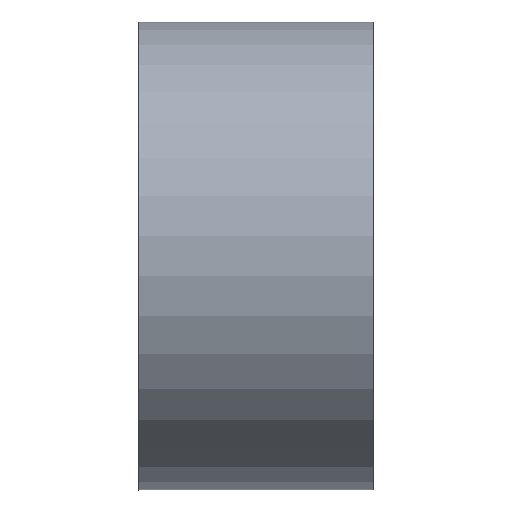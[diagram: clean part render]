
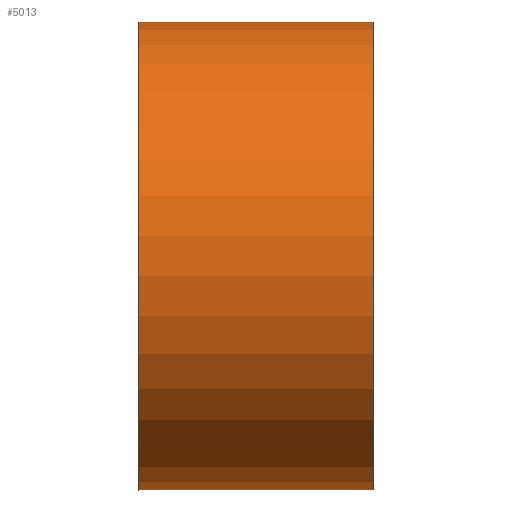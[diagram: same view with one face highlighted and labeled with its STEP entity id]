
A CAD part, left-side view. The second image highlights one B-rep face of the part: STEP entity #5013.
In plain terms, the highlighted cylindrical face has radius 4 mm (diameter 8 mm), a partial arc.
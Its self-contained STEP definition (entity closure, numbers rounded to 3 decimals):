
#431 = CYLINDRICAL_SURFACE('',#432,95.676);
#432 = AXIS2_PLACEMENT_3D('',#433,#434,#435);
#433 = CARTESIAN_POINT('',(34.023,-2.,
    98.381));
#434 = DIRECTION('',(0.,-1.,
    0.));
#435 = DIRECTION('',(0.048,0.,0.999));
#998 = PLANE('',#999);
#999 = AXIS2_PLACEMENT_3D('',#1000,#1001,#1002);
#1000 = CARTESIAN_POINT('',(32.799,0.,2.713));
#1001 = DIRECTION('',(-0.,1.,0.));
#1002 = DIRECTION('',(0.,0.,1.));
#2399 = PLANE('',#2400);
#2400 = AXIS2_PLACEMENT_3D('',#2401,#2402,#2403);
#2401 = CARTESIAN_POINT('',(32.799,-4.,-3.287));
#2402 = DIRECTION('',(0.,-1.,0.));
#2403 = DIRECTION('',(0.,-0.,-1.));
#4563 = CYLINDRICAL_SURFACE('',#4564,95.676);
#4564 = AXIS2_PLACEMENT_3D('',#4565,#4566,#4567);
#4565 = CARTESIAN_POINT('',(34.023,-2.,
    -98.956));
#4566 = DIRECTION('',(0.,1.,0.));
#4567 = DIRECTION('',(0.048,0.,
    -0.999));
#4840 = VERTEX_POINT('',#4841);
#4841 = CARTESIAN_POINT('',(25.988,-4.,-3.617));
#4936 = VERTEX_POINT('',#4937);
#4937 = CARTESIAN_POINT('',(25.988,0.,
    -3.617));
#4966 = EDGE_CURVE('',#4936,#4840,#4967,.T.);
#4967 = SURFACE_CURVE('',#4968,(#4988,#4998),.PCURVE_S1.);
#4968 = B_SPLINE_CURVE_WITH_KNOTS('',3,(#4969,#4970,#4971,#4972,#4973,
    #4974,#4975,#4976,#4977,#4978,#4979,#4980,#4981,#4982,#4983,#4984,
    #4985,#4986,#4987),.UNSPECIFIED.,.F.,.F.,(4,1,1,1,1,1,1,1,1,1,1,1,1,
    1,1,1,4),(0.,0.063,0.125,0.188,0.25,0.313,0.375,0.438,0.5,
    0.563,0.625,0.688,0.75,0.813,0.875,0.938,1.),
  .QUASI_UNIFORM_KNOTS.);
#4969 = CARTESIAN_POINT('',(25.988,0.,-3.617));
#4970 = CARTESIAN_POINT('',(25.988,-0.083,
    -3.617));
#4971 = CARTESIAN_POINT('',(25.988,-0.25,-3.617));
#4972 = CARTESIAN_POINT('',(25.988,-0.5,-3.617));
#4973 = CARTESIAN_POINT('',(25.988,-0.75,-3.617));
#4974 = CARTESIAN_POINT('',(25.988,-1.,-3.617));
#4975 = CARTESIAN_POINT('',(25.988,-1.25,-3.617));
#4976 = CARTESIAN_POINT('',(25.988,-1.5,-3.617));
#4977 = CARTESIAN_POINT('',(25.988,-1.75,-3.617));
#4978 = CARTESIAN_POINT('',(25.988,-2.,-3.617));
#4979 = CARTESIAN_POINT('',(25.988,-2.25,-3.617));
#4980 = CARTESIAN_POINT('',(25.988,-2.5,-3.617));
#4981 = CARTESIAN_POINT('',(25.988,-2.75,-3.617));
#4982 = CARTESIAN_POINT('',(25.988,-3.,-3.617));
#4983 = CARTESIAN_POINT('',(25.988,-3.25,-3.617));
#4984 = CARTESIAN_POINT('',(25.988,-3.5,-3.617));
#4985 = CARTESIAN_POINT('',(25.988,-3.75,-3.617));
#4986 = CARTESIAN_POINT('',(25.988,-3.917,
    -3.617));
#4987 = CARTESIAN_POINT('',(25.988,-4.,-3.617));
#4988 = PCURVE('',#4563,#4989);
#4989 = DEFINITIONAL_REPRESENTATION('',(#4990),#4997);
#4990 = B_SPLINE_CURVE_WITH_KNOTS('',5,(#4991,#4992,#4993,#4994,#4995,
    #4996),.UNSPECIFIED.,.F.,.F.,(6,6),(0.,1.),
  .PIECEWISE_BEZIER_KNOTS.);
#4991 = CARTESIAN_POINT('',(3.106,2.));
#4992 = CARTESIAN_POINT('',(3.106,1.2));
#4993 = CARTESIAN_POINT('',(3.106,0.4));
#4994 = CARTESIAN_POINT('',(3.106,-0.4));
#4995 = CARTESIAN_POINT('',(3.106,-1.2));
#4996 = CARTESIAN_POINT('',(3.106,-2.));
#4997 = ( GEOMETRIC_REPRESENTATION_CONTEXT(2) 
PARAMETRIC_REPRESENTATION_CONTEXT() REPRESENTATION_CONTEXT('2D SPACE',''
  ) );
#4998 = PCURVE('',#4999,#5004);
#4999 = CYLINDRICAL_SURFACE('',#5000,4.);
#5000 = AXIS2_PLACEMENT_3D('',#5001,#5002,#5003);
#5001 = CARTESIAN_POINT('',(23.772,-2.,-0.287));
#5002 = DIRECTION('',(0.,-1.,0.));
#5003 = DIRECTION('',(1.,0.,0.));
#5004 = DEFINITIONAL_REPRESENTATION('',(#5005),#5012);
#5005 = B_SPLINE_CURVE_WITH_KNOTS('',5,(#5006,#5007,#5008,#5009,#5010,
    #5011),.UNSPECIFIED.,.F.,.F.,(6,6),(0.,1.),
  .PIECEWISE_BEZIER_KNOTS.);
#5006 = CARTESIAN_POINT('',(5.3,-2.));
#5007 = CARTESIAN_POINT('',(5.3,-1.2));
#5008 = CARTESIAN_POINT('',(5.3,-0.4));
#5009 = CARTESIAN_POINT('',(5.3,0.4));
#5010 = CARTESIAN_POINT('',(5.3,1.2));
#5011 = CARTESIAN_POINT('',(5.3,2.));
#5012 = ( GEOMETRIC_REPRESENTATION_CONTEXT(2) 
PARAMETRIC_REPRESENTATION_CONTEXT() REPRESENTATION_CONTEXT('2D SPACE',''
  ) );
#5013 = ADVANCED_FACE('',(#5014),#4999,.T.);
#5014 = FACE_BOUND('',#5015,.T.);
#5015 = EDGE_LOOP('',(#5016,#5063,#5092,#5093));
#5016 = ORIENTED_EDGE('',*,*,#5017,.T.);
#5017 = EDGE_CURVE('',#5018,#5020,#5022,.T.);
#5018 = VERTEX_POINT('',#5019);
#5019 = CARTESIAN_POINT('',(25.988,-4.,3.043));
#5020 = VERTEX_POINT('',#5021);
#5021 = CARTESIAN_POINT('',(25.988,0.,
    3.043));
#5022 = SURFACE_CURVE('',#5023,(#5043,#5053),.PCURVE_S1.);
#5023 = B_SPLINE_CURVE_WITH_KNOTS('',3,(#5024,#5025,#5026,#5027,#5028,
    #5029,#5030,#5031,#5032,#5033,#5034,#5035,#5036,#5037,#5038,#5039,
    #5040,#5041,#5042),.UNSPECIFIED.,.F.,.F.,(4,1,1,1,1,1,1,1,1,1,1,1,1,
    1,1,1,4),(0.,0.063,0.125,0.188,0.25,0.313,0.375,0.438,0.5,
    0.563,0.625,0.688,0.75,0.813,0.875,0.938,1.),
  .QUASI_UNIFORM_KNOTS.);
#5024 = CARTESIAN_POINT('',(25.988,-4.,3.043));
#5025 = CARTESIAN_POINT('',(25.988,-3.917,
    3.043));
#5026 = CARTESIAN_POINT('',(25.988,-3.75,3.043));
#5027 = CARTESIAN_POINT('',(25.988,-3.5,3.043));
#5028 = CARTESIAN_POINT('',(25.988,-3.25,3.043));
#5029 = CARTESIAN_POINT('',(25.988,-3.,3.043));
#5030 = CARTESIAN_POINT('',(25.988,-2.75,3.043));
#5031 = CARTESIAN_POINT('',(25.988,-2.5,3.043));
#5032 = CARTESIAN_POINT('',(25.988,-2.25,3.043));
#5033 = CARTESIAN_POINT('',(25.988,-2.,3.043));
#5034 = CARTESIAN_POINT('',(25.988,-1.75,3.043));
#5035 = CARTESIAN_POINT('',(25.988,-1.5,3.043));
#5036 = CARTESIAN_POINT('',(25.988,-1.25,3.043));
#5037 = CARTESIAN_POINT('',(25.988,-1.,3.043));
#5038 = CARTESIAN_POINT('',(25.988,-0.75,3.043));
#5039 = CARTESIAN_POINT('',(25.988,-0.5,3.043));
#5040 = CARTESIAN_POINT('',(25.988,-0.25,3.043));
#5041 = CARTESIAN_POINT('',(25.988,-0.083,
    3.043));
#5042 = CARTESIAN_POINT('',(25.988,0.,3.043));
#5043 = PCURVE('',#4999,#5044);
#5044 = DEFINITIONAL_REPRESENTATION('',(#5045),#5052);
#5045 = B_SPLINE_CURVE_WITH_KNOTS('',5,(#5046,#5047,#5048,#5049,#5050,
    #5051),.UNSPECIFIED.,.F.,.F.,(6,6),(0.,1.),
  .PIECEWISE_BEZIER_KNOTS.);
#5046 = CARTESIAN_POINT('',(0.984,2.));
#5047 = CARTESIAN_POINT('',(0.984,1.2));
#5048 = CARTESIAN_POINT('',(0.984,0.4));
#5049 = CARTESIAN_POINT('',(0.984,-0.4));
#5050 = CARTESIAN_POINT('',(0.984,-1.2));
#5051 = CARTESIAN_POINT('',(0.984,-2.));
#5052 = ( GEOMETRIC_REPRESENTATION_CONTEXT(2) 
PARAMETRIC_REPRESENTATION_CONTEXT() REPRESENTATION_CONTEXT('2D SPACE',''
  ) );
#5053 = PCURVE('',#431,#5054);
#5054 = DEFINITIONAL_REPRESENTATION('',(#5055),#5062);
#5055 = B_SPLINE_CURVE_WITH_KNOTS('',5,(#5056,#5057,#5058,#5059,#5060,
    #5061),.UNSPECIFIED.,.F.,.F.,(6,6),(0.,1.),
  .PIECEWISE_BEZIER_KNOTS.);
#5056 = CARTESIAN_POINT('',(3.106,2.));
#5057 = CARTESIAN_POINT('',(3.106,1.2));
#5058 = CARTESIAN_POINT('',(3.106,0.4));
#5059 = CARTESIAN_POINT('',(3.106,-0.4));
#5060 = CARTESIAN_POINT('',(3.106,-1.2));
#5061 = CARTESIAN_POINT('',(3.106,-2.));
#5062 = ( GEOMETRIC_REPRESENTATION_CONTEXT(2) 
PARAMETRIC_REPRESENTATION_CONTEXT() REPRESENTATION_CONTEXT('2D SPACE',''
  ) );
#5063 = ORIENTED_EDGE('',*,*,#5064,.T.);
#5064 = EDGE_CURVE('',#5020,#4936,#5065,.T.);
#5065 = SURFACE_CURVE('',#5066,(#5071,#5081),.PCURVE_S1.);
#5066 = CIRCLE('',#5067,4.);
#5067 = AXIS2_PLACEMENT_3D('',#5068,#5069,#5070);
#5068 = CARTESIAN_POINT('',(23.772,0.,-0.287));
#5069 = DIRECTION('',(0.,-1.,-0.));
#5070 = DIRECTION('',(-1.,0.,0.));
#5071 = PCURVE('',#4999,#5072);
#5072 = DEFINITIONAL_REPRESENTATION('',(#5073),#5080);
#5073 = B_SPLINE_CURVE_WITH_KNOTS('',5,(#5074,#5075,#5076,#5077,#5078,
    #5079),.UNSPECIFIED.,.F.,.F.,(6,6),(4.125,8.441),
  .PIECEWISE_BEZIER_KNOTS.);
#5074 = CARTESIAN_POINT('',(0.984,-2.));
#5075 = CARTESIAN_POINT('',(1.847,-2.));
#5076 = CARTESIAN_POINT('',(2.71,-2.));
#5077 = CARTESIAN_POINT('',(3.573,-2.));
#5078 = CARTESIAN_POINT('',(4.436,-2.));
#5079 = CARTESIAN_POINT('',(5.3,-2.));
#5080 = ( GEOMETRIC_REPRESENTATION_CONTEXT(2) 
PARAMETRIC_REPRESENTATION_CONTEXT() REPRESENTATION_CONTEXT('2D SPACE',''
  ) );
#5081 = PCURVE('',#998,#5082);
#5082 = DEFINITIONAL_REPRESENTATION('',(#5083),#5091);
#5083 = ( BOUNDED_CURVE() B_SPLINE_CURVE(2,(#5084,#5085,#5086,#5087,
#5088,#5089,#5090),.UNSPECIFIED.,.T.,.F.) B_SPLINE_CURVE_WITH_KNOTS((1,2
    ,2,2,2,1),(-2.094,0.,2.094,4.189,
6.283,8.378),.UNSPECIFIED.) CURVE() 
GEOMETRIC_REPRESENTATION_ITEM() RATIONAL_B_SPLINE_CURVE((1.,0.5,1.,0.5,
1.,0.5,1.)) REPRESENTATION_ITEM('') );
#5084 = CARTESIAN_POINT('',(-3.,-13.027));
#5085 = CARTESIAN_POINT('',(-9.928,-13.027));
#5086 = CARTESIAN_POINT('',(-6.464,-7.027));
#5087 = CARTESIAN_POINT('',(-3.,-1.027));
#5088 = CARTESIAN_POINT('',(0.464,-7.027));
#5089 = CARTESIAN_POINT('',(3.928,-13.027));
#5090 = CARTESIAN_POINT('',(-3.,-13.027));
#5091 = ( GEOMETRIC_REPRESENTATION_CONTEXT(2) 
PARAMETRIC_REPRESENTATION_CONTEXT() REPRESENTATION_CONTEXT('2D SPACE',''
  ) );
#5092 = ORIENTED_EDGE('',*,*,#4966,.T.);
#5093 = ORIENTED_EDGE('',*,*,#5094,.F.);
#5094 = EDGE_CURVE('',#5018,#4840,#5095,.T.);
#5095 = SURFACE_CURVE('',#5096,(#5101,#5111),.PCURVE_S1.);
#5096 = CIRCLE('',#5097,4.);
#5097 = AXIS2_PLACEMENT_3D('',#5098,#5099,#5100);
#5098 = CARTESIAN_POINT('',(23.772,-4.,-0.287));
#5099 = DIRECTION('',(0.,-1.,-0.));
#5100 = DIRECTION('',(-1.,0.,0.));
#5101 = PCURVE('',#4999,#5102);
#5102 = DEFINITIONAL_REPRESENTATION('',(#5103),#5110);
#5103 = B_SPLINE_CURVE_WITH_KNOTS('',5,(#5104,#5105,#5106,#5107,#5108,
    #5109),.UNSPECIFIED.,.F.,.F.,(6,6),(4.125,8.441),
  .PIECEWISE_BEZIER_KNOTS.);
#5104 = CARTESIAN_POINT('',(0.984,2.));
#5105 = CARTESIAN_POINT('',(1.847,2.));
#5106 = CARTESIAN_POINT('',(2.71,2.));
#5107 = CARTESIAN_POINT('',(3.573,2.));
#5108 = CARTESIAN_POINT('',(4.436,2.));
#5109 = CARTESIAN_POINT('',(5.3,2.));
#5110 = ( GEOMETRIC_REPRESENTATION_CONTEXT(2) 
PARAMETRIC_REPRESENTATION_CONTEXT() REPRESENTATION_CONTEXT('2D SPACE',''
  ) );
#5111 = PCURVE('',#2399,#5112);
#5112 = DEFINITIONAL_REPRESENTATION('',(#5113),#5117);
#5113 = ELLIPSE('',#5114,4.,4.);
#5114 = AXIS2_PLACEMENT_2D('',#5115,#5116);
#5115 = CARTESIAN_POINT('',(-3.,-9.027));
#5116 = DIRECTION('',(0.,-1.));
#5117 = ( GEOMETRIC_REPRESENTATION_CONTEXT(2) 
PARAMETRIC_REPRESENTATION_CONTEXT() REPRESENTATION_CONTEXT('2D SPACE',''
  ) );
